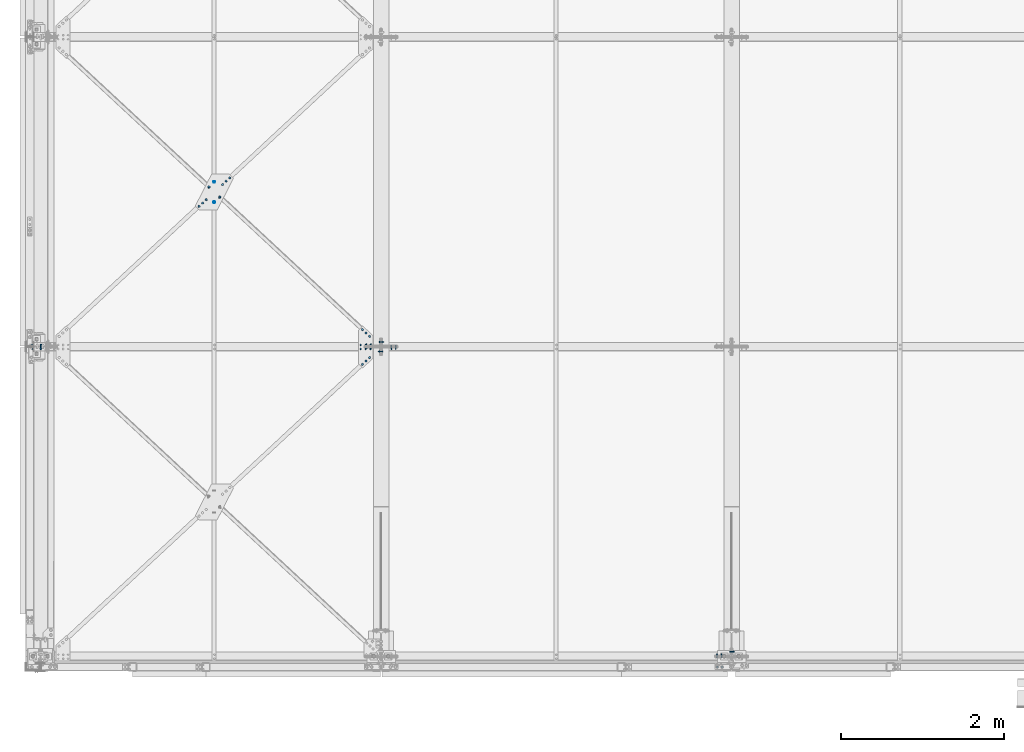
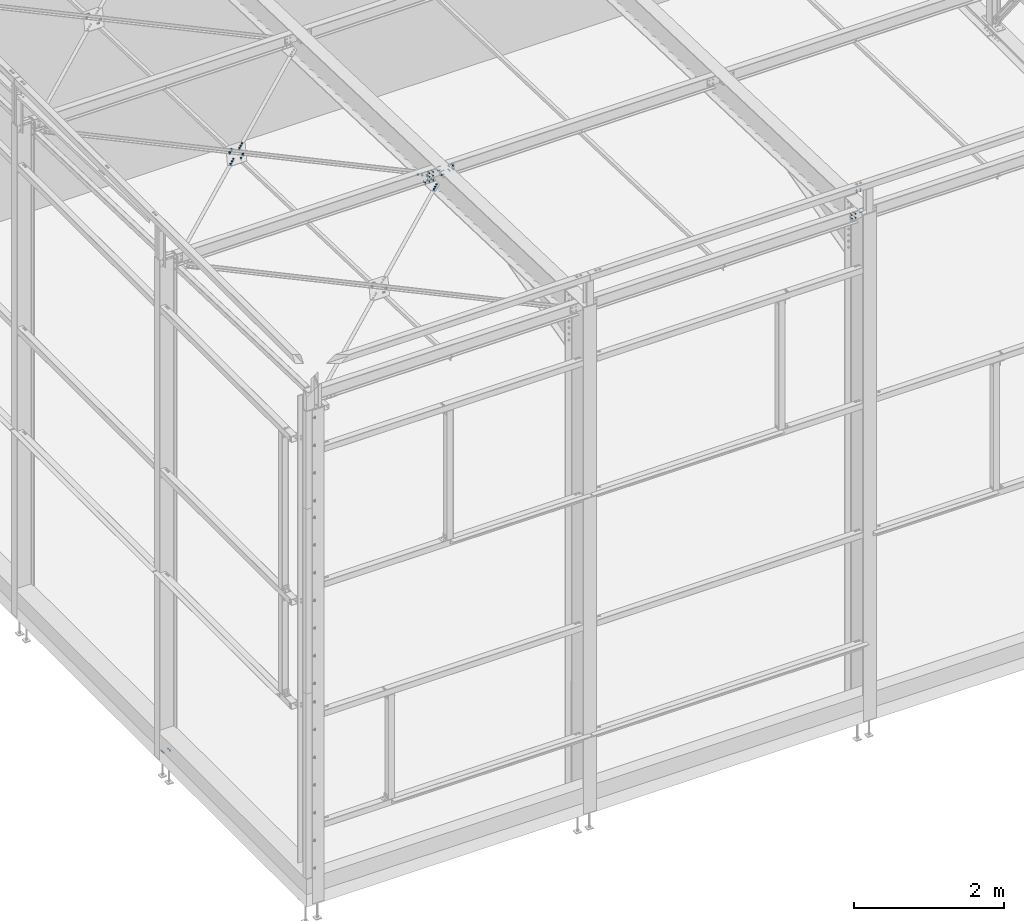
# One storey, part 143 of 362: 15 mechanical fasteners.
"""IFC2X3 building model written with IfcOpenShell, lengths in millimetres."""

from ifc_helpers import new_model, si_unit, frame, frame_2d, origin_with_axes, origin_2d_with_axis, place, context, subcontext, project, spatial, polyline, circle_curve, parameter, trimmed, segment, composite_curve, circle, outline, extrude, source, transform, mapped, material, type_object, element, save


model = new_model("IFC2X3")

# Units and contexts
model_context = context("Model", 3, precision=1e-05, world=origin_with_axes())
body_context = subcontext(model_context, "Body", "Model", "MODEL_VIEW")
ifc_project = project(units=[si_unit("LENGTHUNIT", "METRE", prefix="MILLI"), si_unit("AREAUNIT", "SQUARE_METRE"), si_unit("VOLUMEUNIT", "CUBIC_METRE"), si_unit("MASSUNIT", "GRAM", prefix="KILO"), si_unit("TIMEUNIT", "SECOND"), si_unit("PLANEANGLEUNIT", "RADIAN"), si_unit("SOLIDANGLEUNIT", "STERADIAN"), si_unit("THERMODYNAMICTEMPERATUREUNIT", "DEGREE_CELSIUS"), si_unit("LUMINOUSINTENSITYUNIT", "LUMEN")], contexts=[model_context])

# Site, building, storey
site_placement = place(None, origin_with_axes())
site = spatial("IfcSite", under=ifc_project, at=site_placement, Name="Undefined", CompositionType="ELEMENT")
building_placement = place(site_placement, origin_with_axes())
building = spatial("IfcBuilding", under=site, at=building_placement, Name="Undefined", CompositionType="ELEMENT")
storey_placement = place(building_placement, origin_with_axes())
storey = spatial("IfcBuildingStorey", under=building, at=storey_placement, Name="Undefined", CompositionType="ELEMENT", Elevation=0.0)

# Mechanical fasteners
ifc_material = material(Name="8.8-SB-ZINGUE")
mechanical_fastener_type = type_object("IfcMechanicalFastenerType", Name="Bolt assembly")
shared_shape_1 = source(origin_with_axes(), body_context, "Body", "SweptSolid", [
    extrude(circle(Radius=9.0, at=origin_2d_with_axis()), frame((0.0, 5.90677647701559, 0.0), z_axis=(0.0, 1.0, 0.0), x_axis=(1.0, 0.0, 0.0)), (0.0, 0.0, 1.0), 5.1),
    extrude(circle(Radius=9.0, at=origin_2d_with_axis()), frame((0.0, 0.1, 0.0), z_axis=(0.0, 1.0, 0.0), x_axis=(1.0, 0.0, 0.0)), (0.0, 0.0, 1.0), 6.0),
    extrude(outline(polyline([(13.85640646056, 0.0), (6.92820323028, 12.0000000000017), (-6.92820323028, 12.0000000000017), (-13.85640646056, 0.0), (-6.92820323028, -12.0000000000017), (6.92820323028, -12.0000000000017), (13.85640646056, 0.0)])), frame((0.0, -10.5600019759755, 0.0), z_axis=(0.0, 1.0, 0.0), x_axis=(1.0, 0.0, 0.0)), (0.0, 0.0, 1.0), 10.56),
    extrude(circle(Radius=8.0, at=origin_2d_with_axis()), frame((0.0, 0.0, 0.0), z_axis=(0.0, 1.0, 0.0), x_axis=(1.0, 0.0, 0.0)), (0.0, 0.0, 1.0), 30.0),
    extrude(outline(polyline([(15.3344231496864, 0.0), (7.6672115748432, 13.2800000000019), (-7.6672115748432, 13.2800000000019), (-15.3344231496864, 0.0), (-7.6672115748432, -13.2800000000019), (7.6672115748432, -13.2800000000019), (15.3344231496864, 0.0)])), frame((0.0, 11.006776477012, 0.0), z_axis=(0.0, 1.0, 0.0), x_axis=(1.0, 0.0, 0.0)), (0.0, 0.0, 1.0), 10.56),
])
mechanical_fastener_1_placement = place(storey_placement, frame((2235.26634015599, 5790.01565784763, 7667.94693206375), z_axis=(-0.680837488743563, 0.73207308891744, -0.0230066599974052), x_axis=(0.732434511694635, 0.680501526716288, -0.0213859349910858)))
element("IfcMechanicalFastener", 1, at=mechanical_fastener_1_placement, inside=storey, type_object=mechanical_fastener_type, material=ifc_material, Name="Bolt assembly", NominalDiameter=16.0, NominalLength=30.0, context=body_context, shape_type="MappedRepresentation", body=[
    mapped(shared_shape_1, transform((0.0, 0.0, 0.0))),
    mapped(shared_shape_1, transform((60.0, 0.0, 0.0))),
    mapped(shared_shape_1, transform((120.0, 0.0, 0.0))),
])
shared_shape_2 = source(origin_with_axes(), body_context, "Body", "SweptSolid", [
    extrude(circle(Radius=9.0, at=origin_2d_with_axis()), frame((0.0, 2.90716421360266, 0.0), z_axis=(0.0, 1.0, 0.0), x_axis=(1.0, 0.0, 0.0)), (0.0, 0.0, 1.0), 5.1),
    extrude(circle(Radius=9.0, at=origin_2d_with_axis()), frame((0.0, -2.90345384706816, 0.0), z_axis=(0.0, 1.0, 0.0), x_axis=(1.0, 0.0, 0.0)), (0.0, 0.0, 1.0), 6.0),
    extrude(outline(polyline([(13.85640646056, 0.0), (6.92820323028, 12.0000000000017), (-6.92820323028, 12.0000000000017), (-13.85640646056, 0.0), (-6.92820323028, -12.0000000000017), (6.92820323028, -12.0000000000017), (13.85640646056, 0.0)])), frame((0.0, -13.5634538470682, 0.0), z_axis=(0.0, 1.0, 0.0), x_axis=(1.0, 0.0, 0.0)), (0.0, 0.0, 1.0), 10.56),
    extrude(circle(Radius=8.0, at=origin_2d_with_axis()), frame((0.0, -3.00345384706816, 0.0), z_axis=(0.0, 1.0, 0.0), x_axis=(1.0, 0.0, 0.0)), (0.0, 0.0, 1.0), 30.0),
    extrude(outline(polyline([(15.3344231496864, 0.0), (7.6672115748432, 13.2800000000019), (-7.6672115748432, 13.2800000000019), (-15.3344231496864, 0.0), (-7.6672115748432, -13.2800000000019), (7.6672115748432, -13.2800000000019), (15.3344231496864, 0.0)])), frame((0.0, 8.00716421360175, 0.0), z_axis=(0.0, 1.0, 0.0), x_axis=(1.0, 0.0, 0.0)), (0.0, 0.0, 1.0), 10.56),
])
mechanical_fastener_2_placement = place(storey_placement, frame((4039.03580752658, 3665.80432147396, 7731.69900250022), z_axis=(0.68083834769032, -0.732072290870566, 0.0230066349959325), x_axis=(-0.732433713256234, -0.680502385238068, 0.0213859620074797)))
element("IfcMechanicalFastener", 2, at=mechanical_fastener_2_placement, inside=storey, type_object=mechanical_fastener_type, material=ifc_material, Name="Bolt assembly", NominalDiameter=16.0, NominalLength=30.0, context=body_context, shape_type="MappedRepresentation", body=[
    mapped(shared_shape_2, transform((0.0, 0.0, 0.0))),
    mapped(shared_shape_2, transform((60.0, 0.0, 0.0))),
    mapped(shared_shape_2, transform((120.0, 0.0, 0.0))),
])
shared_shape_3 = source(origin_with_axes(), body_context, "Body", "SweptSolid", [
    extrude(circle(Radius=7.0, at=origin_2d_with_axis()), frame((0.0, 0.100057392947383, 0.0), z_axis=(0.0, 1.0, 0.0), x_axis=(1.0, 0.0, 0.0)), (0.0, 0.0, 1.0), 5.0),
    extrude(circle(Radius=7.0, at=origin_2d_with_axis()), frame((0.0, -0.0999426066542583, 0.0), z_axis=(0.0, 1.0, 0.0), x_axis=(1.0, 0.0, 0.0)), (0.0, 0.0, 1.0), 6.1),
    extrude(outline(polyline([(10.39230484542, 0.0), (5.19615242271, 9.00000000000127), (-5.19615242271, 9.00000000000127), (-10.39230484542, 0.0), (-5.19615242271, -9.00000000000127), (5.19615242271, -9.00000000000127), (10.39230484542, 0.0)])), frame((0.0, -7.91994260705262, 0.0), z_axis=(0.0, 1.0, 0.0), x_axis=(1.0, 0.0, 0.0)), (0.0, 0.0, 1.0), 7.92),
    extrude(circle(Radius=6.0, at=origin_2d_with_axis()), frame((0.0, 6.26397177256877e-05, 0.0), z_axis=(0.0, 1.0, 0.0), x_axis=(1.0, 0.0, 0.0)), (0.0, 0.0, 1.0), 30.0),
    extrude(outline(polyline([(11.5008173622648, 0.0), (5.7504086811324, 9.96000000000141), (-5.7504086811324, 9.96000000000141), (-11.5008173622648, 0.0), (-5.7504086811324, -9.96000000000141), (5.7504086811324, -9.96000000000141), (11.5008173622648, 0.0)])), frame((0.0, 6.00005739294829, 0.0), z_axis=(0.0, 1.0, 0.0), x_axis=(1.0, 0.0, 0.0)), (0.0, 0.0, 1.0), 7.92),
])
mechanical_fastener_3_placement = place(storey_placement, frame((2135.00007400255, 5696.85867244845, 7670.87455106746), z_axis=(0.0, -0.999506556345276, 0.031410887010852), x_axis=(-1.0, 0.0, 0.0)))
element("IfcMechanicalFastener", 3, at=mechanical_fastener_3_placement, inside=storey, type_object=mechanical_fastener_type, material=ifc_material, Name="Bolt assembly", NominalDiameter=12.0, NominalLength=30.0, context=body_context, shape_type="MappedRepresentation", body=[
    mapped(shared_shape_3, transform((0.0, -1.17324816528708e-10, -124.999999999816))),
    mapped(shared_shape_3, transform((0.0, 1.17324816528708e-10, 124.999999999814))),
])
shared_shape_4 = source(origin_with_axes(), body_context, "Body", "SweptSolid", [
    extrude(circle(Radius=9.0, at=origin_2d_with_axis()), frame((0.0, -4.89477748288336, 0.0), z_axis=(0.0, 1.0, 0.0), x_axis=(1.0, 0.0, 0.0)), (0.0, 0.0, 1.0), 5.0),
    extrude(circle(Radius=9.0, at=origin_2d_with_axis()), frame((0.0, -0.100011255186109, 0.0), z_axis=(0.0, 1.0, 0.0), x_axis=(1.0, 0.0, 0.0)), (0.0, 0.0, 1.0), 6.1),
    extrude(outline(polyline([(13.85640646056, 0.0), (6.92820323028, 12.0000000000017), (-6.92820323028, 12.0000000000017), (-13.85640646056, 0.0), (-6.92820323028, -12.0000000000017), (6.92820323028, -12.0000000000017), (13.85640646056, 0.0)])), frame((0.0, -15.5547774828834, 0.0), z_axis=(0.0, 1.0, 0.0), x_axis=(1.0, 0.0, 0.0)), (0.0, 0.0, 1.0), 10.56),
    extrude(circle(Radius=8.0, at=origin_2d_with_axis()), frame((0.0, -4.99477748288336, 0.0), z_axis=(0.0, 1.0, 0.0), x_axis=(1.0, 0.0, 0.0)), (0.0, 0.0, 1.0), 30.0),
    extrude(outline(polyline([(15.3344231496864, 0.0), (7.6672115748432, 13.2800000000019), (-7.6672115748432, 13.2800000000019), (-15.3344231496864, 0.0), (-7.6672115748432, -13.2800000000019), (7.6672115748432, -13.2800000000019), (15.3344231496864, 0.0)])), frame((0.0, 6.0, 0.0), z_axis=(0.0, 1.0, 0.0), x_axis=(1.0, 0.0, 0.0)), (0.0, 0.0, 1.0), 10.56),
])
mechanical_fastener_4_placement = place(storey_placement, frame((2135.00000157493, 5696.85866110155, 7670.87455144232), z_axis=(-0.732427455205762, 0.680509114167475, -0.0213861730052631), x_axis=(0.680845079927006, 0.732066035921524, -0.0230064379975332)))
element("IfcMechanicalFastener", 4, at=mechanical_fastener_4_placement, inside=storey, type_object=mechanical_fastener_type, material=ifc_material, Name="Bolt assembly", NominalDiameter=16.0, NominalLength=30.0, context=body_context, shape_type="MappedRepresentation", body=[
    mapped(shared_shape_4, transform((-8.00355337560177e-11, 1.57342583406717e-10, -90.000000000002))),
    mapped(shared_shape_4, transform((8.36735125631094e-11, -1.5825207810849e-10, 90.0))),
])
shared_shape_5 = source(origin_with_axes(), body_context, "Body", "SweptSolid", [
    extrude(circle(Radius=9.0, at=origin_2d_with_axis()), frame((0.0, 5.90714570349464, 0.0), z_axis=(0.0, 1.0, 0.0), x_axis=(1.0, 0.0, 0.0)), (0.0, 0.0, 1.0), 5.1),
    extrude(circle(Radius=9.0, at=origin_2d_with_axis()), frame((0.0, 0.1, 0.0), z_axis=(0.0, 1.0, 0.0), x_axis=(1.0, 0.0, 0.0)), (0.0, 0.0, 1.0), 6.0),
    extrude(outline(polyline([(13.85640646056, 0.0), (6.92820323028, 12.0000000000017), (-6.92820323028, 12.0000000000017), (-13.85640646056, 0.0), (-6.92820323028, -12.0000000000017), (6.92820323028, -12.0000000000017), (13.85640646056, 0.0)])), frame((0.0, -10.5600019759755, 0.0), z_axis=(0.0, 1.0, 0.0), x_axis=(1.0, 0.0, 0.0)), (0.0, 0.0, 1.0), 10.56),
    extrude(circle(Radius=8.0, at=origin_2d_with_axis()), frame((0.0, 0.0, 0.0), z_axis=(0.0, 1.0, 0.0), x_axis=(1.0, 0.0, 0.0)), (0.0, 0.0, 1.0), 30.0),
    extrude(outline(polyline([(15.3344231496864, 0.0), (7.6672115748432, 13.2800000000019), (-7.6672115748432, 13.2800000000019), (-15.3344231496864, 0.0), (-7.6672115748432, -13.2800000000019), (7.6672115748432, -13.2800000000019), (15.3344231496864, 0.0)])), frame((0.0, 11.0071457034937, 0.0), z_axis=(0.0, 1.0, 0.0), x_axis=(1.0, 0.0, 0.0)), (0.0, 0.0, 1.0), 10.56),
])
mechanical_fastener_5_placement = place(storey_placement, frame((2034.73366298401, 5603.70166439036, 7673.80217081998), z_axis=(0.680837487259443, -0.732073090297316, 0.0230066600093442), x_axis=(-0.732434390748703, -0.68050165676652, 0.0213859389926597)))
element("IfcMechanicalFastener", 5, at=mechanical_fastener_5_placement, inside=storey, type_object=mechanical_fastener_type, material=ifc_material, Name="Bolt assembly", NominalDiameter=16.0, NominalLength=30.0, context=body_context, shape_type="MappedRepresentation", body=[
    mapped(shared_shape_5, transform((0.0, 0.0, 0.0))),
    mapped(shared_shape_5, transform((60.0, 0.0, 0.0))),
    mapped(shared_shape_5, transform((120.0, 0.0, 0.0))),
])
shared_shape_6 = source(origin_with_axes(), body_context, "Body", "SweptSolid", [
    extrude(circle(Radius=7.0, at=origin_2d_with_axis()), frame((0.0, -8.39481938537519, 0.0), z_axis=(0.0, 1.0, 0.0), x_axis=(1.0, 0.0, 0.0)), (0.0, 0.0, 1.0), 8.5),
    extrude(circle(Radius=7.0, at=origin_2d_with_axis()), frame((0.0, -0.100011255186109, 0.0), z_axis=(0.0, 1.0, 0.0), x_axis=(1.0, 0.0, 0.0)), (0.0, 0.0, 1.0), 6.1),
    extrude(outline(polyline([(10.39230484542, 0.0), (5.19615242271, 9.00000000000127), (-5.19615242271, 9.00000000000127), (-10.39230484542, 0.0), (-5.19615242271, -9.00000000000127), (5.19615242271, -9.00000000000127), (10.39230484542, 0.0)])), frame((0.0, -16.4148193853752, 0.0), z_axis=(0.0, 1.0, 0.0), x_axis=(1.0, 0.0, 0.0)), (0.0, 0.0, 1.0), 7.92),
    extrude(circle(Radius=6.0, at=origin_2d_with_axis()), frame((0.0, -8.49481938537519, 0.0), z_axis=(0.0, 1.0, 0.0), x_axis=(1.0, 0.0, 0.0)), (0.0, 0.0, 1.0), 30.0),
    extrude(outline(polyline([(11.5008173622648, 0.0), (5.7504086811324, 9.96000000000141), (-5.7504086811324, 9.96000000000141), (-11.5008173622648, 0.0), (-5.7504086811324, -9.96000000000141), (5.7504086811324, -9.96000000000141), (11.5008173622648, 0.0)])), frame((0.0, 6.0, 0.0), z_axis=(0.0, 1.0, 0.0), x_axis=(1.0, 0.0, 0.0)), (0.0, 0.0, 1.0), 7.92),
])
mechanical_fastener_6_placement = place(storey_placement, frame((4049.99999959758, 3796.86789994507, 7730.58503981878), z_axis=(0.0, -0.999506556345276, 0.031410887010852), x_axis=(-1.0, 0.0, 0.0)))
element("IfcMechanicalFastener", 6, at=mechanical_fastener_6_placement, inside=storey, type_object=mechanical_fastener_type, material=ifc_material, Name="Bolt assembly", NominalDiameter=12.0, NominalLength=30.0, context=body_context, shape_type="MappedRepresentation", body=[
    mapped(shared_shape_6, transform((0.0, 0.0, -25.0))),
    mapped(shared_shape_6, transform((59.9999999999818, -8.18545231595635e-12, -25.0000000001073))),
    mapped(shared_shape_6, transform((119.999999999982, -1.72803993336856e-11, -25.0000000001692))),
    mapped(shared_shape_6, transform((0.0, 0.0, 25.0))),
    mapped(shared_shape_6, transform((60.00000000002, -1.00044417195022e-11, 24.9999999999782))),
    mapped(shared_shape_6, transform((120.00000000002, -1.90993887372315e-11, 24.9999999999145))),
])
shared_shape_7 = source(origin_with_axes(), body_context, "Body", "SweptSolid", [
    extrude(circle(Radius=7.0, at=origin_2d_with_axis()), frame((0.0, -4.69999899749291, 0.0), z_axis=(0.0, 1.0, 0.0), x_axis=(1.0, 0.0, 0.0)), (0.0, 0.0, 1.0), 9.4),
    extrude(circle(Radius=7.0, at=origin_2d_with_axis()), frame((0.0, 4.9000000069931, 0.0), z_axis=(0.0, 1.0, 0.0), x_axis=(1.0, 0.0, 0.0)), (0.0, 0.0, 1.0), 10.1),
    extrude(circle(Radius=7.0, at=origin_2d_with_axis()), frame((0.0, -14.899999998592, 0.0), z_axis=(0.0, 1.0, 0.0), x_axis=(1.0, 0.0, 0.0)), (0.0, 0.0, 1.0), 10.0),
    extrude(outline(polyline([(10.39230484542, 0.0), (5.19615242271, 9.00000000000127), (-5.19615242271, 9.00000000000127), (-10.39230484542, 0.0), (-5.19615242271, -9.00000000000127), (5.19615242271, -9.00000000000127), (10.39230484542, 0.0)])), frame((0.0, -22.919999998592, 0.0), z_axis=(0.0, 1.0, 0.0), x_axis=(1.0, 0.0, 0.0)), (0.0, 0.0, 1.0), 7.92),
    extrude(circle(Radius=6.0, at=origin_2d_with_axis()), frame((0.0, -14.999999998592, 0.0), z_axis=(0.0, 1.0, 0.0), x_axis=(1.0, 0.0, 0.0)), (0.0, 0.0, 1.0), 50.0),
    extrude(outline(polyline([(11.5008173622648, 0.0), (5.7504086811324, 9.96000000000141), (-5.7504086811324, 9.96000000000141), (-11.5008173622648, 0.0), (-5.7504086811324, -9.96000000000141), (5.7504086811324, -9.96000000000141), (11.5008173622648, 0.0)])), frame((0.0, 15.0000000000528, 0.0), z_axis=(0.0, 1.0, 0.0), x_axis=(1.0, 0.0, 0.0)), (0.0, 0.0, 1.0), 7.92),
])
mechanical_fastener_7_placement = place(storey_placement, frame((4180.0, 3857.97780378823, 7828.70871980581), z_axis=(7.58071938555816e-11, 0.0314107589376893, 0.999506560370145), x_axis=(0.0, -0.999506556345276, 0.031410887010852)))
element("IfcMechanicalFastener", 7, at=mechanical_fastener_7_placement, inside=storey, type_object=mechanical_fastener_type, material=ifc_material, Name="Bolt assembly", NominalDiameter=12.0, NominalLength=50.0, context=body_context, shape_type="MappedRepresentation", body=[
    mapped(shared_shape_7, transform((0.0, 0.0, -30.0))),
    mapped(shared_shape_7, transform((0.0, 0.0, 30.0))),
])
shared_shape_8 = source(origin_with_axes(), body_context, "Body", "SweptSolid", [
    extrude(circle(Radius=7.0, at=origin_2d_with_axis()), frame((0.0, -5.60090332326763, 0.0), z_axis=(0.0, 1.0, 0.0), x_axis=(1.0, 0.0, 0.0)), (0.0, 0.0, 1.0), 5.6),
    extrude(circle(Radius=7.0, at=origin_2d_with_axis()), frame((0.0, -15.7008623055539, 0.0), z_axis=(0.0, 1.0, 0.0), x_axis=(1.0, 0.0, 0.0)), (0.0, 0.0, 1.0), 10.0),
    extrude(circle(Radius=7.0, at=origin_2d_with_axis()), frame((0.0, 0.1, 0.0), z_axis=(0.0, 1.0, 0.0), x_axis=(1.0, 0.0, 0.0)), (0.0, 0.0, 1.0), 10.1),
    extrude(outline(polyline([(10.39230484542, 0.0), (5.19615242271, 9.00000000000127), (-5.19615242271, 9.00000000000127), (-10.39230484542, 0.0), (-5.19615242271, -9.00000000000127), (5.19615242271, -9.00000000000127), (10.39230484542, 0.0)])), frame((0.0, -23.7208623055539, 0.0), z_axis=(0.0, 1.0, 0.0), x_axis=(1.0, 0.0, 0.0)), (0.0, 0.0, 1.0), 7.92),
    extrude(circle(Radius=6.0, at=origin_2d_with_axis()), frame((0.0, -15.8008623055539, 0.0), z_axis=(0.0, 1.0, 0.0), x_axis=(1.0, 0.0, 0.0)), (0.0, 0.0, 1.0), 50.0),
    extrude(outline(polyline([(11.5008173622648, 0.0), (5.7504086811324, 9.96000000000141), (-5.7504086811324, 9.96000000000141), (-11.5008173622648, 0.0), (-5.7504086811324, -9.96000000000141), (5.7504086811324, -9.96000000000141), (11.5008173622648, 0.0)])), frame((0.0, 10.1999997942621, 0.0), z_axis=(0.0, 1.0, 0.0), x_axis=(1.0, 0.0, 0.0)), (0.0, 0.0, 1.0), 7.92),
])
for number, where, z_axis, x_axis, name in (
    (8, (8300.00000000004, 2.79957496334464, 7949.86435376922), (7.58071938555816e-11, 0.0314107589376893, 0.999506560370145), (1.0, 0.0, 0.0), "Bolt assembly"),
    (9, (4000.00000000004, 3802.80504263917, 7830.44262439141), (7.58071938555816e-11, 0.0314107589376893, 0.999506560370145), (1.0, 0.0, 0.0), "Bolt assembly"),
):
    element("IfcMechanicalFastener", number, at=place(storey_placement, frame(where, z_axis=z_axis, x_axis=x_axis)), inside=storey, type_object=mechanical_fastener_type, material=ifc_material, Name=name, NominalDiameter=12.0, NominalLength=50.0, context=body_context, shape_type="MappedRepresentation", body=[
        mapped(shared_shape_8, transform((0.0, 0.0, -30.0))),
        mapped(shared_shape_8, transform((55.0000000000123, 3.45607986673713e-11, -30.0000000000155))),
        mapped(shared_shape_8, transform((0.0, 0.0, 30.0))),
        mapped(shared_shape_8, transform((54.9999999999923, 3.45607986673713e-11, 29.9999999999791))),
    ])
shared_shape_9 = source(origin_with_axes(), body_context, "Body", "SweptSolid", [
    extrude(circle(Radius=7.0, at=origin_2d_with_axis()), frame((0.0, -4.69999899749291, 0.0), z_axis=(0.0, 1.0, 0.0), x_axis=(1.0, 0.0, 0.0)), (0.0, 0.0, 1.0), 9.4),
    extrude(circle(Radius=7.0, at=origin_2d_with_axis()), frame((0.0, -14.899999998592, 0.0), z_axis=(0.0, 1.0, 0.0), x_axis=(1.0, 0.0, 0.0)), (0.0, 0.0, 1.0), 10.0),
    extrude(circle(Radius=7.0, at=origin_2d_with_axis()), frame((0.0, 4.9000000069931, 0.0), z_axis=(0.0, 1.0, 0.0), x_axis=(1.0, 0.0, 0.0)), (0.0, 0.0, 1.0), 10.1),
    extrude(outline(polyline([(10.39230484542, 0.0), (5.19615242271, 9.00000000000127), (-5.19615242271, 9.00000000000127), (-10.39230484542, 0.0), (-5.19615242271, -9.00000000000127), (5.19615242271, -9.00000000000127), (10.39230484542, 0.0)])), frame((0.0, -22.919999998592, 0.0), z_axis=(0.0, 1.0, 0.0), x_axis=(1.0, 0.0, 0.0)), (0.0, 0.0, 1.0), 7.92),
    extrude(circle(Radius=6.0, at=origin_2d_with_axis()), frame((0.0, -14.999999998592, 0.0), z_axis=(0.0, 1.0, 0.0), x_axis=(1.0, 0.0, 0.0)), (0.0, 0.0, 1.0), 50.0),
    extrude(outline(polyline([(11.5008173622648, 0.0), (5.7504086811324, 9.96000000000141), (-5.7504086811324, 9.96000000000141), (-11.5008173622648, 0.0), (-5.7504086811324, -9.96000000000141), (5.7504086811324, -9.96000000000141), (11.5008173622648, 0.0)])), frame((0.0, 15.0000000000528, 0.0), z_axis=(0.0, 1.0, 0.0), x_axis=(1.0, 0.0, 0.0)), (0.0, 0.0, 1.0), 7.92),
])
mechanical_fastener_8_placement = place(storey_placement, frame((4180.0, 3742.03418260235, 7832.35244818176), z_axis=(7.58071938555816e-11, 0.0314107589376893, 0.999506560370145), x_axis=(3.14103090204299e-11, 0.999506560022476, -0.0314107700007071)))
element("IfcMechanicalFastener", 10, at=mechanical_fastener_8_placement, inside=storey, type_object=mechanical_fastener_type, material=ifc_material, Name="Bolt assembly", NominalDiameter=12.0, NominalLength=50.0, context=body_context, shape_type="MappedRepresentation", body=[
    mapped(shared_shape_9, transform((0.0, 0.0, -30.0))),
    mapped(shared_shape_9, transform((0.0, 0.0, 30.0))),
])
shared_shape_10 = source(origin_with_axes(), body_context, "Body", "SweptSolid", [
    extrude(circle(Radius=7.0, at=origin_2d_with_axis()), frame((0.0, -5.59995888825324, 0.0), z_axis=(0.0, 1.0, 0.0), x_axis=(1.0, 0.0, 0.0)), (0.0, 0.0, 1.0), 5.6),
    extrude(circle(Radius=7.0, at=origin_2d_with_axis()), frame((0.0, 0.1, 0.0), z_axis=(0.0, 1.0, 0.0), x_axis=(1.0, 0.0, 0.0)), (0.0, 0.0, 1.0), 10.1),
    extrude(circle(Radius=7.0, at=origin_2d_with_axis()), frame((0.0, -15.7008623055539, 0.0), z_axis=(0.0, 1.0, 0.0), x_axis=(1.0, 0.0, 0.0)), (0.0, 0.0, 1.0), 10.0),
    extrude(outline(polyline([(10.39230484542, 0.0), (5.19615242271, 9.00000000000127), (-5.19615242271, 9.00000000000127), (-10.39230484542, 0.0), (-5.19615242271, -9.00000000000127), (5.19615242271, -9.00000000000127), (10.39230484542, 0.0)])), frame((0.0, -23.7208623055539, 0.0), z_axis=(0.0, 1.0, 0.0), x_axis=(1.0, 0.0, 0.0)), (0.0, 0.0, 1.0), 7.92),
    extrude(circle(Radius=6.0, at=origin_2d_with_axis()), frame((0.0, -15.8008623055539, 0.0), z_axis=(0.0, 1.0, 0.0), x_axis=(1.0, 0.0, 0.0)), (0.0, 0.0, 1.0), 50.0),
    extrude(outline(polyline([(11.5008173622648, 0.0), (5.7504086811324, 9.96000000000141), (-5.7504086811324, 9.96000000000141), (-11.5008173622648, 0.0), (-5.7504086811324, -9.96000000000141), (5.7504086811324, -9.96000000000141), (11.5008173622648, 0.0)])), frame((0.0, 10.1999997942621, 0.0), z_axis=(0.0, 1.0, 0.0), x_axis=(1.0, 0.0, 0.0)), (0.0, 0.0, 1.0), 7.92),
])
mechanical_fastener_9_placement = place(storey_placement, frame((4360.0, 3797.20694410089, 7830.61855429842), z_axis=(7.58071938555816e-11, 0.0314107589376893, 0.999506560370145), x_axis=(-1.0, 0.0, 0.0)))
element("IfcMechanicalFastener", 11, at=mechanical_fastener_9_placement, inside=storey, type_object=mechanical_fastener_type, material=ifc_material, Name="Bolt assembly", NominalDiameter=12.0, NominalLength=50.0, context=body_context, shape_type="MappedRepresentation", body=[
    mapped(shared_shape_10, transform((0.0, 0.0, -30.0))),
    mapped(shared_shape_10, transform((55.0000000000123, 3.45607986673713e-11, -30.0000000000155))),
    mapped(shared_shape_10, transform((0.0, 0.0, 30.0))),
    mapped(shared_shape_10, transform((54.9999999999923, 3.45607986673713e-11, 29.9999999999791))),
])
shared_shape_11 = source(origin_with_axes(), body_context, "Body", "SweptSolid", [
    extrude(circle(Radius=7.0, at=origin_2d_with_axis()), frame((0.0, -3.89999843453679, 0.0), z_axis=(0.0, 1.0, 0.0), x_axis=(1.0, 0.0, 0.0)), (0.0, 0.0, 1.0), 4.0),
    extrude(outline(composite_curve([segment(polyline([(-7.0, 7.0), (7.0, 7.0)]), True, "CONTINUOUS"), segment(trimmed(circle_curve(frame_2d((7.0, 0.0), x_axis=(0.0, 1.0)), 7.0), [parameter(0.0)], [parameter(3.14159265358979)], False, "PARAMETER"), True, "CONTINUOUS"), segment(polyline([(7.0, -7.0), (-7.0, -7.0)]), True, "CONTINUOUS"), segment(trimmed(circle_curve(frame_2d((-7.0, 0.0), x_axis=(0.0, -1.0)), 7.0), [parameter(0.0)], [parameter(3.14159265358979)], False, "PARAMETER"), True, "DISCONTINUOUS")], self_intersect=False)), frame((0.0, -0.100011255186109, 0.0), z_axis=(0.0, 1.0, 0.0), x_axis=(1.0, 0.0, 0.0)), (0.0, 0.0, 1.0), 10.1),
    extrude(outline(polyline([(10.39230484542, 0.0), (5.19615242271, 9.00000000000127), (-5.19615242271, 9.00000000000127), (-10.39230484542, 0.0), (-5.19615242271, -9.00000000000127), (5.19615242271, -9.00000000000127), (10.39230484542, 0.0)])), frame((0.0, -11.9199984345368, 0.0), z_axis=(0.0, 1.0, 0.0), x_axis=(1.0, 0.0, 0.0)), (0.0, 0.0, 1.0), 7.92),
    extrude(circle(Radius=6.0, at=origin_2d_with_axis()), frame((0.0, -3.99999923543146, 0.0), z_axis=(0.0, 1.0, 0.0), x_axis=(1.0, 0.0, 0.0)), (0.0, 0.0, 1.0), 40.0),
    extrude(circle(Radius=10.8, at=origin_2d_with_axis()), frame((0.0, 10.0000000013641, 0.0), z_axis=(0.0, 1.0, 0.0), x_axis=(1.0, 0.0, 0.0)), (0.0, 0.0, 1.0), 3.96),
    extrude(outline(polyline([(11.5008173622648, 0.0), (5.7504086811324, 9.96000000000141), (-5.7504086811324, 9.96000000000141), (-11.5008173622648, 0.0), (-5.7504086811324, -9.96000000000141), (5.7504086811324, -9.96000000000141), (11.5008173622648, 0.0)])), frame((0.0, 13.96, 0.0), z_axis=(0.0, 1.0, 0.0), x_axis=(1.0, 0.0, 0.0)), (0.0, 0.0, 1.0), 7.92),
])
mechanical_fastener_10_placement = place(storey_placement, frame((8305.00000320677, -130.000005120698, 8450.0), z_axis=(0.0, 1.0, 0.0), x_axis=(1.0, 0.0, 0.0)))
element("IfcMechanicalFastener", 12, at=mechanical_fastener_10_placement, inside=storey, type_object=mechanical_fastener_type, material=ifc_material, Name="Bolt assembly", NominalDiameter=12.0, NominalLength=40.0, context=body_context, shape_type="MappedRepresentation", body=[
    mapped(shared_shape_11, transform((0.0, 0.0, 0.0))),
    mapped(shared_shape_11, transform((60.0, 0.0, 0.0))),
])
shared_shape_12 = source(origin_with_axes(), body_context, "Body", "SweptSolid", [
    extrude(circle(Radius=9.0, at=origin_2d_with_axis()), frame((0.0, -7.89485276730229, 0.0), z_axis=(0.0, 1.0, 0.0), x_axis=(1.0, 0.0, 0.0)), (0.0, 0.0, 1.0), 5.0),
    extrude(circle(Radius=9.0, at=origin_2d_with_axis()), frame((0.0, -3.10345380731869, 0.0), z_axis=(0.0, 1.0, 0.0), x_axis=(1.0, 0.0, 0.0)), (0.0, 0.0, 1.0), 6.1),
    extrude(outline(polyline([(13.85640646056, 0.0), (6.92820323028, 12.0000000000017), (-6.92820323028, 12.0000000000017), (-13.85640646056, 0.0), (-6.92820323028, -12.0000000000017), (6.92820323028, -12.0000000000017), (13.85640646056, 0.0)])), frame((0.0, -18.5548527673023, 0.0), z_axis=(0.0, 1.0, 0.0), x_axis=(1.0, 0.0, 0.0)), (0.0, 0.0, 1.0), 10.56),
    extrude(circle(Radius=8.0, at=origin_2d_with_axis()), frame((0.0, -7.99485276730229, 0.0), z_axis=(0.0, 1.0, 0.0), x_axis=(1.0, 0.0, 0.0)), (0.0, 0.0, 1.0), 30.0),
    extrude(outline(polyline([(15.3344231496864, 0.0), (7.6672115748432, 13.2800000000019), (-7.6672115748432, 13.2800000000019), (-15.3344231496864, 0.0), (-7.6672115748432, -13.2800000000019), (7.6672115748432, -13.2800000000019), (15.3344231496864, 0.0)])), frame((0.0, 2.99654619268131, 0.0), z_axis=(0.0, 1.0, 0.0), x_axis=(1.0, 0.0, 0.0)), (0.0, 0.0, 1.0), 10.56),
])
mechanical_fastener_11_placement = place(storey_placement, frame((4039.03552096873, 3927.74297295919, 7723.46712835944), z_axis=(-0.680837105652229, -0.732073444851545, 0.0230066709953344), x_axis=(-0.732434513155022, 0.680501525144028, -0.0213859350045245)))
element("IfcMechanicalFastener", 13, at=mechanical_fastener_11_placement, inside=storey, type_object=mechanical_fastener_type, material=ifc_material, Name="Bolt assembly", NominalDiameter=16.0, NominalLength=30.0, context=body_context, shape_type="MappedRepresentation", body=[
    mapped(shared_shape_12, transform((0.0, 0.0, 0.0))),
    mapped(shared_shape_12, transform((60.0, 0.0, 0.0))),
    mapped(shared_shape_12, transform((120.0, 0.0, 0.0))),
])
shared_shape_13 = source(origin_with_axes(), body_context, "Body", "SweptSolid", [
    extrude(circle(Radius=7.0, at=origin_2d_with_axis()), frame((0.0, -5.1000000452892, 0.0), z_axis=(0.0, 1.0, 0.0), x_axis=(1.0, 0.0, 0.0)), (0.0, 0.0, 1.0), 10.2),
    extrude(circle(Radius=7.0, at=origin_2d_with_axis()), frame((0.0, 4.9000000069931, 0.0), z_axis=(0.0, 1.0, 0.0), x_axis=(1.0, 0.0, 0.0)), (0.0, 0.0, 1.0), 10.1),
    extrude(circle(Radius=7.0, at=origin_2d_with_axis()), frame((0.0, -14.899999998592, 0.0), z_axis=(0.0, 1.0, 0.0), x_axis=(1.0, 0.0, 0.0)), (0.0, 0.0, 1.0), 10.0),
    extrude(outline(polyline([(10.39230484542, 0.0), (5.19615242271, 9.00000000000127), (-5.19615242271, 9.00000000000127), (-10.39230484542, 0.0), (-5.19615242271, -9.00000000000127), (5.19615242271, -9.00000000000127), (10.39230484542, 0.0)])), frame((0.0, -22.919999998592, 0.0), z_axis=(0.0, 1.0, 0.0), x_axis=(1.0, 0.0, 0.0)), (0.0, 0.0, 1.0), 7.92),
    extrude(circle(Radius=6.0, at=origin_2d_with_axis()), frame((0.0, -14.999999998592, 0.0), z_axis=(0.0, 1.0, 0.0), x_axis=(1.0, 0.0, 0.0)), (0.0, 0.0, 1.0), 50.0),
    extrude(outline(polyline([(11.5008173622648, 0.0), (5.7504086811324, 9.96000000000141), (-5.7504086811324, 9.96000000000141), (-11.5008173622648, 0.0), (-5.7504086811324, -9.96000000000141), (5.7504086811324, -9.96000000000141), (11.5008173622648, 0.0)])), frame((0.0, 15.0000000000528, 0.0), z_axis=(0.0, 1.0, 0.0), x_axis=(1.0, 0.0, 0.0)), (0.0, 0.0, 1.0), 7.92),
])
mechanical_fastener_12_placement = place(storey_placement, frame((8480.0, 57.9723361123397, 7948.13044918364), z_axis=(7.58071938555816e-11, 0.0314107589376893, 0.999506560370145), x_axis=(0.0, -0.999506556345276, 0.031410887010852)))
element("IfcMechanicalFastener", 14, at=mechanical_fastener_12_placement, inside=storey, type_object=mechanical_fastener_type, material=ifc_material, Name="Bolt assembly", NominalDiameter=12.0, NominalLength=50.0, context=body_context, shape_type="MappedRepresentation", body=[
    mapped(shared_shape_13, transform((0.0, 0.0, -30.0))),
    mapped(shared_shape_13, transform((0.0, 0.0, 30.0))),
])
shared_shape_14 = source(origin_with_axes(), body_context, "Body", "SweptSolid", [
    extrude(circle(Radius=9.0, at=origin_2d_with_axis()), frame((0.0, -3.29999884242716, 0.0), z_axis=(0.0, 1.0, 0.0), x_axis=(1.0, 0.0, 0.0)), (0.0, 0.0, 1.0), 6.6),
    extrude(circle(Radius=9.0, at=origin_2d_with_axis()), frame((0.0, 4.9000000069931, 0.0), z_axis=(0.0, 1.0, 0.0), x_axis=(1.0, 0.0, 0.0)), (0.0, 0.0, 1.0), 15.1),
    extrude(circle(Radius=9.0, at=origin_2d_with_axis()), frame((0.0, -19.9, 0.0), z_axis=(0.0, 1.0, 0.0), x_axis=(1.0, 0.0, 0.0)), (0.0, 0.0, 1.0), 15.0),
    extrude(outline(polyline([(13.85640646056, 0.0), (6.92820323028, 12.0000000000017), (-6.92820323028, 12.0000000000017), (-13.85640646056, 0.0), (-6.92820323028, -12.0000000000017), (6.92820323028, -12.0000000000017), (13.85640646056, 0.0)])), frame((0.0, -30.56, 0.0), z_axis=(0.0, 1.0, 0.0), x_axis=(1.0, 0.0, 0.0)), (0.0, 0.0, 1.0), 10.56),
    extrude(circle(Radius=8.0, at=origin_2d_with_axis()), frame((0.0, -20.0, 0.0), z_axis=(0.0, 1.0, 0.0), x_axis=(1.0, 0.0, 0.0)), (0.0, 0.0, 1.0), 60.0),
    extrude(outline(polyline([(15.3344231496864, 0.0), (7.6672115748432, 13.2800000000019), (-7.6672115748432, 13.2800000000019), (-15.3344231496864, 0.0), (-7.6672115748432, -13.2800000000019), (7.6672115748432, -13.2800000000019), (15.3344231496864, 0.0)])), frame((0.0, 20.0, 0.0), z_axis=(0.0, 1.0, 0.0), x_axis=(1.0, 0.0, 0.0)), (0.0, 0.0, 1.0), 10.56),
])
mechanical_fastener_13_placement = place(storey_placement, frame((-45.0, 3800.0, -115.0), z_axis=(-1.0, 0.0, 0.0), x_axis=(0.0, 0.0, -1.0)))
element("IfcMechanicalFastener", 15, at=mechanical_fastener_13_placement, inside=storey, type_object=mechanical_fastener_type, material=ifc_material, Name="Bolt assembly", NominalDiameter=16.0, NominalLength=60.0, context=body_context, shape_type="MappedRepresentation", body=[
    mapped(shared_shape_14, transform((0.0, 0.0, -50.0))),
    mapped(shared_shape_14, transform((0.0, 0.0, 50.0))),
])

save(model, "model.ifc")
